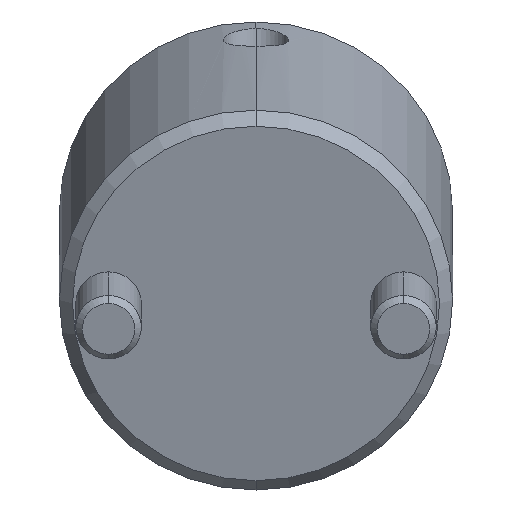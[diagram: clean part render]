
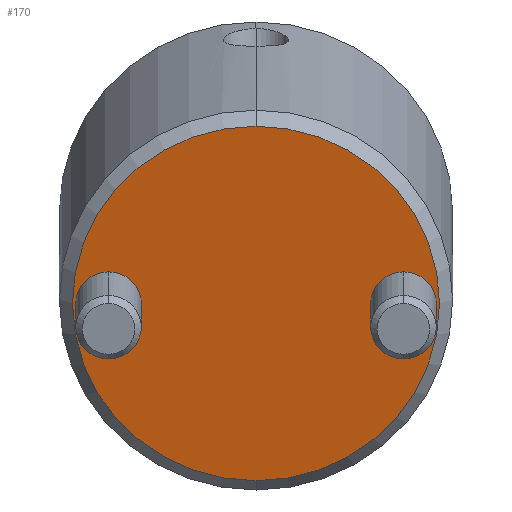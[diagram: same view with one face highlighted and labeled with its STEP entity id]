
A CAD part, front view. The second image highlights one B-rep face of the part: STEP entity #170.
In plain terms, the highlighted planar face has unit normal (0, -0.966, -0.259) as drawn and (0, 0, -1) by its records, which use the part's own axes.
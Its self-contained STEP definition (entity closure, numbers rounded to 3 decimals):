
#50 = CIRCLE ( 'NONE', #208, 2.5 ) ;
#51 = EDGE_CURVE ( 'NONE', #972, #382, #1295, .T. ) ;
#89 = DIRECTION ( 'NONE',  ( 0., 0., -1. ) ) ;
#91 = ORIENTED_EDGE ( 'NONE', *, *, #1512, .F. ) ;
#105 = DIRECTION ( 'NONE',  ( 0., 0., 1. ) ) ;
#135 = DIRECTION ( 'NONE',  ( 0., 0., -1. ) ) ;
#136 = DIRECTION ( 'NONE',  ( -1., 0., 0. ) ) ;
#170 = ADVANCED_FACE ( 'NONE', ( #670, #563, #931 ), #426, .F. ) ;
#208 = AXIS2_PLACEMENT_3D ( 'NONE', #1380, #135, #512 ) ;
#236 = DIRECTION ( 'NONE',  ( -1., 0., 0. ) ) ;
#302 = DIRECTION ( 'NONE',  ( 1., 0., 0. ) ) ;
#307 = CARTESIAN_POINT ( 'NONE',  ( 0., 0., 0. ) ) ;
#315 = DIRECTION ( 'NONE',  ( -1., 0., 0. ) ) ;
#328 = CARTESIAN_POINT ( 'NONE',  ( -2.5, 11.25, 0. ) ) ;
#336 = CIRCLE ( 'NONE', #1292, 2.5 ) ;
#354 = DIRECTION ( 'NONE',  ( 1., 0., 0. ) ) ;
#382 = VERTEX_POINT ( 'NONE', #1132 ) ;
#426 = PLANE ( 'NONE',  #1608 ) ;
#457 = CIRCLE ( 'NONE', #1377, 14. ) ;
#512 = DIRECTION ( 'NONE',  ( -1., 0., 0. ) ) ;
#533 = DIRECTION ( 'NONE',  ( 0., 0., -1. ) ) ;
#536 = DIRECTION ( 'NONE',  ( 0., 0., 1. ) ) ;
#563 = FACE_BOUND ( 'NONE', #734, .T. ) ;
#579 = VERTEX_POINT ( 'NONE', #1288 ) ;
#603 = CARTESIAN_POINT ( 'NONE',  ( 0., 0., 0. ) ) ;
#670 = FACE_BOUND ( 'NONE', #916, .T. ) ;
#679 = ORIENTED_EDGE ( 'NONE', *, *, #950, .F. ) ;
#734 = EDGE_LOOP ( 'NONE', ( #91, #679 ) ) ;
#772 = CARTESIAN_POINT ( 'NONE',  ( 0., -11.25, 0. ) ) ;
#794 = ORIENTED_EDGE ( 'NONE', *, *, #1355, .F. ) ;
#905 = EDGE_CURVE ( 'NONE', #1630, #1301, #958, .T. ) ;
#909 = VERTEX_POINT ( 'NONE', #1078 ) ;
#916 = EDGE_LOOP ( 'NONE', ( #1221, #1281 ) ) ;
#931 = FACE_OUTER_BOUND ( 'NONE', #1345, .T. ) ;
#950 = EDGE_CURVE ( 'NONE', #909, #579, #1144, .T. ) ;
#958 = CIRCLE ( 'NONE', #1357, 2.5 ) ;
#972 = VERTEX_POINT ( 'NONE', #1243 ) ;
#1025 = CARTESIAN_POINT ( 'NONE',  ( 2.5, 11.25, 0. ) ) ;
#1058 = EDGE_CURVE ( 'NONE', #1301, #1630, #50, .T. ) ;
#1078 = CARTESIAN_POINT ( 'NONE',  ( 2.5, -11.25, 0. ) ) ;
#1097 = CARTESIAN_POINT ( 'NONE',  ( 0., -11.25, 0. ) ) ;
#1132 = CARTESIAN_POINT ( 'NONE',  ( 14., 0., 0. ) ) ;
#1144 = CIRCLE ( 'NONE', #1217, 2.5 ) ;
#1217 = AXIS2_PLACEMENT_3D ( 'NONE', #1097, #1495, #236 ) ;
#1221 = ORIENTED_EDGE ( 'NONE', *, *, #1058, .F. ) ;
#1243 = CARTESIAN_POINT ( 'NONE',  ( -14., 0., 0. ) ) ;
#1256 = AXIS2_PLACEMENT_3D ( 'NONE', #603, #105, #354 ) ;
#1281 = ORIENTED_EDGE ( 'NONE', *, *, #905, .F. ) ;
#1288 = CARTESIAN_POINT ( 'NONE',  ( -2.5, -11.25, 0. ) ) ;
#1292 = AXIS2_PLACEMENT_3D ( 'NONE', #772, #533, #136 ) ;
#1295 = CIRCLE ( 'NONE', #1256, 14. ) ;
#1301 = VERTEX_POINT ( 'NONE', #328 ) ;
#1329 = CARTESIAN_POINT ( 'NONE',  ( 0., 0., 0. ) ) ;
#1337 = DIRECTION ( 'NONE',  ( 0., 0., 1. ) ) ;
#1342 = ORIENTED_EDGE ( 'NONE', *, *, #51, .F. ) ;
#1345 = EDGE_LOOP ( 'NONE', ( #794, #1342 ) ) ;
#1355 = EDGE_CURVE ( 'NONE', #382, #972, #457, .T. ) ;
#1357 = AXIS2_PLACEMENT_3D ( 'NONE', #1480, #89, #315 ) ;
#1377 = AXIS2_PLACEMENT_3D ( 'NONE', #307, #1337, #302 ) ;
#1380 = CARTESIAN_POINT ( 'NONE',  ( 0., 11.25, 0. ) ) ;
#1416 = DIRECTION ( 'NONE',  ( 1., 0., 0. ) ) ;
#1480 = CARTESIAN_POINT ( 'NONE',  ( 0., 11.25, 0. ) ) ;
#1495 = DIRECTION ( 'NONE',  ( 0., 0., -1. ) ) ;
#1512 = EDGE_CURVE ( 'NONE', #579, #909, #336, .T. ) ;
#1608 = AXIS2_PLACEMENT_3D ( 'NONE', #1329, #536, #1416 ) ;
#1630 = VERTEX_POINT ( 'NONE', #1025 ) ;
